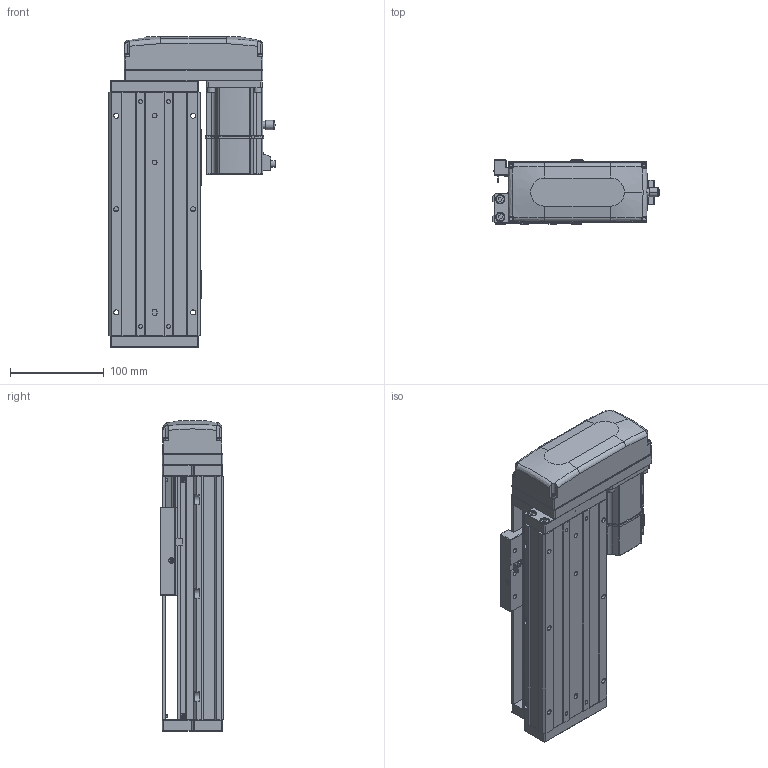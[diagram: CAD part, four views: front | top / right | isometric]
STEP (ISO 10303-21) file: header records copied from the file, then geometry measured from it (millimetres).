
FILE_DESCRIPTION (( 'STEP AP203' ), '1' );
FILE_NAME ('KTHA100-100-BL-M20-C4L.step', '2022-04-26T01:47:09', ( '微软用户' ), ( '微软中国' ), 'SwSTEP 2.0', 'SolidWorks 2020', '' );
FILE_SCHEMA (( 'CONFIG_CONTROL_DESIGN' ));
Length unit declared in the file: millimetre
Products named in the file (17): EE_SX911P_R; GBT 70.3-M3℅6; CTHA60-017; _X2_4E0983F1_X0_200W_1; KTHA100-001_260; CTHA60-021; CTHA86-015-1_CTHA86-015-2; KTHA100-002; GBT77-2000 M3×3; CTHA86-033; KTHA100-004; GBT 70.1-M3℅6; KTHA100-100-BL-M20-C4L; KTHA100-005; GBT70.1 M5℅16; GB¨uT 70.2-M3¡Á5_M3¡Á6; CTHA60-016
Assembly tree (57 placements, depth 2):
  KTHA100-100-BL-M20-C4L
    KTHA100-001_260
    KTHA100-002
    KTHA100-004
    KTHA100-005
    GB¨uT 70.2-M3¡Á5_M3¡Á6  x6
    EE_SX911P_R  x3
    CTHA60-017  x3
    CTHA60-021  x2
    GBT77-2000 M3×3  x6
    GBT 70.1-M3℅6  x10
    GBT70.1 M5℅16  x14
    CTHA60-016  x2
    GBT 70.3-M3℅6  x4
    _X2_4E0983F1_X0_200W_1
    CTHA86-015-1_CTHA86-015-2
    CTHA86-033
Bounding box: 177.7 x 68 x 331 mm (x, y, z)
Volume: 1913335.4 mm3; surface area: 323654.9 mm2
Topology: 60 solids, 60 shells, 2337 faces, 5553 edges, 3436 vertices
Faces by surface type: plane 1184, cylinder 647, cone 299, torus 116, bspline 75, sphere 16
Entity records: 38718 total; most frequent: CARTESIAN_POINT 7888, DIRECTION 5942, ORIENTED_EDGE 5718, EDGE_CURVE 2859, AXIS2_PLACEMENT_3D 2098, VERTEX_POINT 1796, VECTOR 1746, LINE 1746
